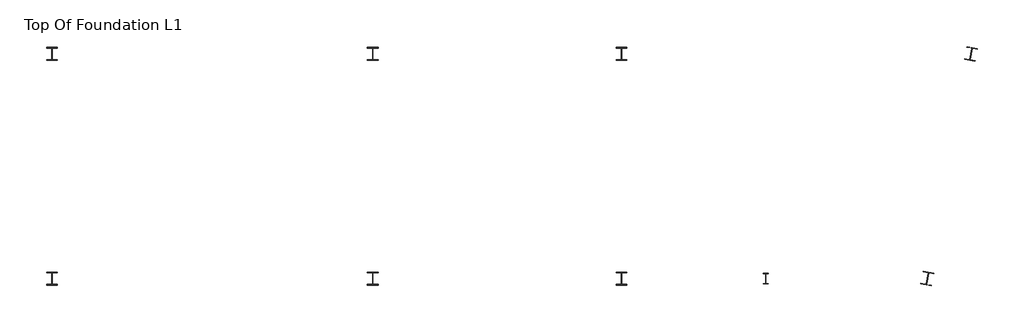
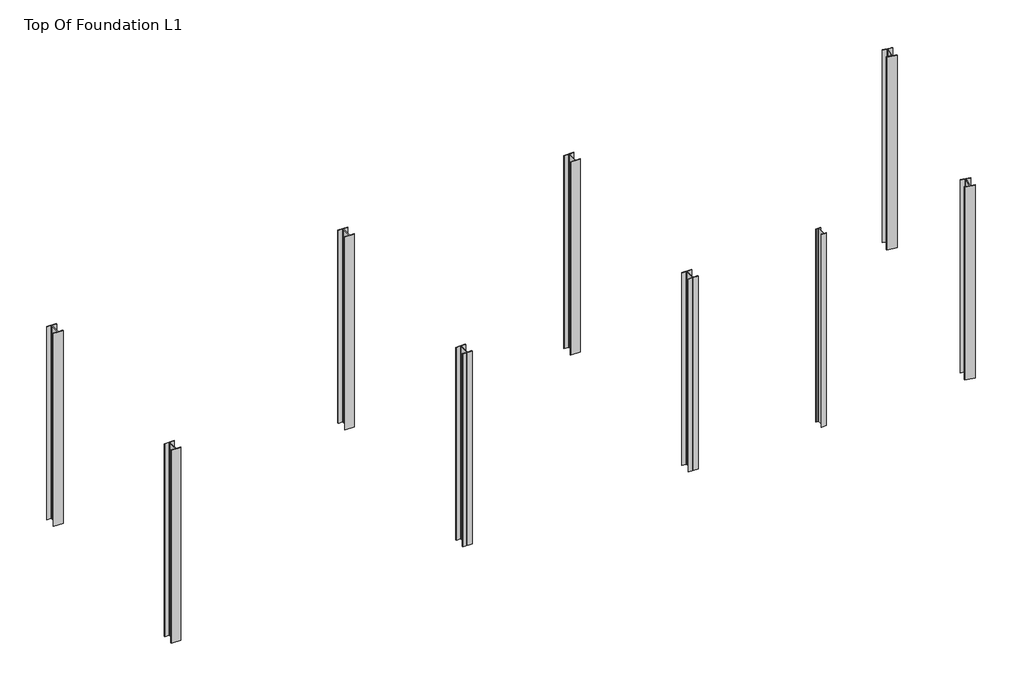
# One storey: 9 columns.
"""IFC4 building model written with IfcOpenShell, lengths in millimetres."""

import ifcopenshell
import ifcopenshell.guid

model = None  # the IFC model being written
_history = None  # IfcOwnerHistory: only IFC2X3 demands one
_inside = {}  # id of a spatial element -> (the spatial element, [elements in it])
_under = {}  # id of a project, library or spatial element -> (it, [spatial elements below it])
_declared = {}  # id of a project -> (the project, [libraries it declares])
_typed = {}  # id of a type object -> (the type object, [elements of that type])
_made_of = {}  # id of a material, layer set ... -> (it, [elements and type objects made of it])


def new_model(schema):
    """Start an empty IFC model of exactly this schema.

    Asked for "IFC4X3", IfcOpenShell would pick the latest addendum, in which some entities
    have other attributes; the version numbers below select the first issue.
    IFC2X3 requires an IfcOwnerHistory on every rooted entity: one is made here for all.
    """
    global model, _history
    if schema == "IFC4X3":
        model = ifcopenshell.file(schema_version=(4, 3, 0, 0))
    else:
        model = ifcopenshell.file(schema=schema)
    _inside.clear()
    _under.clear()
    _declared.clear()
    _typed.clear()
    _made_of.clear()
    _history = None
    if model.schema == "IFC2X3":
        org = make("IfcOrganization", Name="unknown")
        user = make(
            "IfcPersonAndOrganization",
            ThePerson=make("IfcPerson", FamilyName="unknown"),
            TheOrganization=org,
        )
        app = make(
            "IfcApplication",
            ApplicationDeveloper=org,
            Version="unknown",
            ApplicationFullName="unknown",
            ApplicationIdentifier="unknown",
        )
        _history = make(
            "IfcOwnerHistory",
            OwningUser=user,
            OwningApplication=app,
            ChangeAction="ADDED",
            CreationDate=0,
        )
    return model


def make(cls, **values):
    """One entity of the class cls with the attributes given. An attribute that is None is left unset."""
    return model.create_entity(
        cls, **{name: value for name, value in values.items() if value is not None}
    )


def rooted(cls, **values):
    """An entity with a GlobalId (a new one), such as an element, a storey or a relation."""
    return make(cls, GlobalId=ifcopenshell.guid.new(), OwnerHistory=_history, **values)


def si_unit(unit_type, name, prefix=None):
    """IfcSIUnit, for example si_unit("LENGTHUNIT", "METRE", prefix="MILLI")."""
    return make("IfcSIUnit", UnitType=unit_type, Prefix=prefix, Name=name)


def assignment(units):
    """IfcUnitAssignment: the units of a project."""
    return None if units is None else make("IfcUnitAssignment", Units=units)


def point(xyz):
    """IfcCartesianPoint."""
    return None if xyz is None else make("IfcCartesianPoint", Coordinates=xyz)


def direction(xyz):
    """IfcDirection."""
    return None if xyz is None else make("IfcDirection", DirectionRatios=xyz)


def frame(location, z_axis=None, x_axis=None):
    """IfcAxis2Placement3D, a coordinate frame: its origin and axes. An axis left out is left unset."""
    return make(
        "IfcAxis2Placement3D",
        Location=point(location),
        Axis=direction(z_axis),
        RefDirection=direction(x_axis),
    )


def frame_2d(location, x_axis=None):
    """IfcAxis2Placement2D, a coordinate frame in the plane: its origin and x axis."""
    return make(
        "IfcAxis2Placement2D", Location=point(location), RefDirection=direction(x_axis)
    )


def origin():
    """The frame at (0, 0, 0) with its axes left unset."""
    return frame((0.0, 0.0, 0.0))


def place(relative_to, where):
    """IfcLocalPlacement: puts the frame where relative to a parent placement (None: the world)."""
    return make(
        "IfcLocalPlacement", PlacementRelTo=relative_to, RelativePlacement=where
    )


def context(
    kind, dimensions, precision=None, world=None, true_north=None, identifier=None
):
    """IfcGeometricRepresentationContext, for example the 3D "Model" context."""
    return make(
        "IfcGeometricRepresentationContext",
        ContextIdentifier=identifier,
        ContextType=kind,
        CoordinateSpaceDimension=dimensions,
        Precision=precision,
        WorldCoordinateSystem=world,
        TrueNorth=true_north,
    )


def project(units=None, contexts=None):
    """IfcProject with its units and contexts."""
    return rooted(
        "IfcProject",
        Name="project",
        RepresentationContexts=contexts,
        UnitsInContext=assignment(units),
    )


def spatial(cls, under=None, at=None, **own):
    """A site, building, storey or space (cls), placed at a placement, below another one or the project."""
    s = rooted(cls, ObjectPlacement=at, **own)
    if under is not None:
        _under.setdefault(under.id(), (under, []))[1].append(s)
    return s


def polyline(points):
    """IfcPolyline through the points."""
    return make("IfcPolyline", Points=[point(p) for p in points])


def circle_curve(where, radius):
    """IfcCircle in the frame where."""
    return make("IfcCircle", Position=where, Radius=radius)


def trimmed(basis, trim1, trim2, sense, master):
    """IfcTrimmedCurve: the piece of a basis curve between two trims."""
    return make(
        "IfcTrimmedCurve",
        BasisCurve=basis,
        Trim1=trim1,
        Trim2=trim2,
        SenseAgreement=sense,
        MasterRepresentation=master,
    )


def segment(curve, same_sense, transition):
    """IfcCompositeCurveSegment."""
    return make(
        "IfcCompositeCurveSegment",
        Transition=transition,
        SameSense=same_sense,
        ParentCurve=curve,
    )


def composite_curve(segments, self_intersect=None):
    """IfcCompositeCurve: segments joined end to end."""
    return make("IfcCompositeCurve", Segments=segments, SelfIntersect=self_intersect)


def outline(outer, holes=None, kind="AREA"):
    """IfcArbitraryClosedProfileDef: a profile drawn as a closed curve; with holes, ...WithVoids."""
    if holes is None:
        return make("IfcArbitraryClosedProfileDef", ProfileType=kind, OuterCurve=outer)
    return make(
        "IfcArbitraryProfileDefWithVoids",
        ProfileType=kind,
        OuterCurve=outer,
        InnerCurves=holes,
    )


def extrude(swept, where, along, depth):
    """IfcExtrudedAreaSolid: the profile swept, set in the frame where, extruded along a direction by depth."""
    return make(
        "IfcExtrudedAreaSolid",
        SweptArea=swept,
        Position=where,
        ExtrudedDirection=direction(along),
        Depth=depth,
    )


def shape(context_of_items, identifier, shape_type, items):
    """IfcShapeRepresentation: the items that make up one representation, for example the "Body"."""
    return make(
        "IfcShapeRepresentation",
        ContextOfItems=context_of_items,
        RepresentationIdentifier=identifier,
        RepresentationType=shape_type,
        Items=items,
    )


def source(mapping_origin, context_of_items, identifier, shape_type, items):
    """IfcRepresentationMap: a shape defined once, which mapped items show again and again."""
    return make(
        "IfcRepresentationMap",
        MappingOrigin=mapping_origin,
        MappedRepresentation=shape(context_of_items, identifier, shape_type, items),
    )


def transform(
    local_origin,
    x_axis=None,
    y_axis=None,
    z_axis=None,
    scale=None,
    scale2=None,
    scale3=None,
    uniform=True,
):
    """IfcCartesianTransformationOperator3D, or its non-uniform kind. x_axis, y_axis, z_axis: its Axis1, 2, 3."""
    if uniform:
        return make(
            "IfcCartesianTransformationOperator3D",
            Axis1=direction(x_axis),
            Axis2=direction(y_axis),
            LocalOrigin=point(local_origin),
            Scale=scale,
            Axis3=direction(z_axis),
        )
    return make(
        "IfcCartesianTransformationOperator3DnonUniform",
        Axis1=direction(x_axis),
        Axis2=direction(y_axis),
        LocalOrigin=point(local_origin),
        Scale=scale,
        Axis3=direction(z_axis),
        Scale2=scale2,
        Scale3=scale3,
    )


def mapped(mapping_source, mapping_target):
    """IfcMappedItem: shows the shape of a source again, moved by a transform."""
    return make(
        "IfcMappedItem", MappingSource=mapping_source, MappingTarget=mapping_target
    )


def made_of(thing, what):
    """Note that an element or type object is made of a material, layer set ...; save() writes the relation."""
    if what is not None:
        _made_of.setdefault(what.id(), (what, []))[1].append(thing)
    return thing


def element(
    cls,
    number,
    at=None,
    inside=None,
    cuts=None,
    type_object=None,
    material=None,
    context=None,
    identifier="Body",
    shape_type=None,
    held_by="IfcProductDefinitionShape",
    body=None,
    shapes=None,
    **own,
):
    """One element of the class cls, such as IfcWall. Its Tag is "e" and its number.

    at: its placement. inside: the storey or other place that contains it. cuts: it is an
    opening in that element (IfcRelVoidsElement). A single representation is given by context,
    identifier, shape_type and body (its items); several are given by shapes. held_by: the class
    of the entity that holds the representations. save() writes the other relations.
    """
    e = rooted(cls, Tag="e%d" % number, ObjectPlacement=at, **own)
    if body is not None:
        shapes = [shape(context, identifier, shape_type, body)]
    if shapes is not None:
        e.Representation = make(held_by, Representations=shapes)
    if inside is not None:
        _inside.setdefault(inside.id(), (inside, []))[1].append(e)
    if cuts is not None:
        rooted(
            "IfcRelVoidsElement", RelatingBuildingElement=cuts, RelatedOpeningElement=e
        )
    if type_object is not None:
        _typed.setdefault(type_object.id(), (type_object, []))[1].append(e)
    return made_of(e, material)


def aggregate(whole, parts):
    """IfcRelAggregates: a whole, such as a stair, and the parts it consists of."""
    return rooted("IfcRelAggregates", RelatingObject=whole, RelatedObjects=parts)


def save(model, path):
    """Write the relations noted so far, then the file.

    IfcRelAggregates (storeys below a building ...), IfcRelContainedInSpatialStructure (elements
    in a storey), IfcRelDefinesByType, IfcRelAssociatesMaterial and IfcRelDeclares: one each for
    every whole, place, type object, material and project.
    """
    for whole, parts in _under.values():
        aggregate(whole, parts)
    for where, things in _inside.values():
        rooted(
            "IfcRelContainedInSpatialStructure",
            RelatedElements=things,
            RelatingStructure=where,
        )
    for kind, things in _typed.values():
        rooted("IfcRelDefinesByType", RelatedObjects=things, RelatingType=kind)
    for what, things in _made_of.values():
        rooted("IfcRelAssociatesMaterial", RelatedObjects=things, RelatingMaterial=what)
    for by, libraries in _declared.values():
        rooted("IfcRelDeclares", RelatingContext=by, RelatedDefinitions=libraries)
    model.write(path)


def w_shapes_column_w10x33_a1101d32(model_context):
    return source(origin(), model_context, "Body", "SweptSolid", [
        extrude(outline(composite_curve([segment(polyline([(101.092, 123.571), (101.092, 112.522), (16.383, 112.522)]), True, "CONTINUOUS"), segment(trimmed(circle_curve(frame_2d((16.383, 99.822)), 12.7), [point((16.383, 112.522))], [point((3.683, 99.822))], True, "CARTESIAN"), True, "CONTINUOUS"), segment(polyline([(3.683, 99.822), (3.683, -99.822)]), True, "CONTINUOUS"), segment(trimmed(circle_curve(frame_2d((16.383, -99.822)), 12.7), [point((3.683, -99.822))], [point((16.383, -112.522))], True, "CARTESIAN"), True, "CONTINUOUS"), segment(polyline([(16.383, -112.522), (101.092, -112.522), (101.092, -123.571), (-101.092, -123.571), (-101.092, -112.522), (-16.383, -112.522)]), True, "CONTINUOUS"), segment(trimmed(circle_curve(frame_2d((-16.383, -99.822)), 12.7), [point((-16.383, -112.522))], [point((-3.683, -99.822))], True, "CARTESIAN"), True, "CONTINUOUS"), segment(polyline([(-3.683, -99.822), (-3.683, 99.822)]), True, "CONTINUOUS"), segment(trimmed(circle_curve(frame_2d((-16.383, 99.822)), 12.7), [point((-3.683, 99.822))], [point((-16.383, 112.522))], True, "CARTESIAN"), True, "CONTINUOUS"), segment(polyline([(-16.383, 112.522), (-101.092, 112.522), (-101.092, 123.571), (101.092, 123.571)]), True, "CONTINUOUS")], self_intersect=False)), frame((0.0, 0.0, -1219.2), z_axis=(0.0, 0.0, 1.0), x_axis=(1.0, 0.0, 0.0)), (0.0, 0.0, 1.0), 4267.2),
    ])


def w_shapes_column_w8x10_2de26a70(model_context):
    return source(origin(), model_context, "Body", "SweptSolid", [
        extrude(outline(composite_curve([segment(polyline([(50.038, 100.203), (50.038, 94.996), (9.779, 94.996)]), True, "CONTINUOUS"), segment(trimmed(circle_curve(frame_2d((9.779, 87.376)), 7.62), [point((9.779, 94.996))], [point((2.159, 87.376))], True, "CARTESIAN"), True, "CONTINUOUS"), segment(polyline([(2.159, 87.376), (2.159, -87.376)]), True, "CONTINUOUS"), segment(trimmed(circle_curve(frame_2d((9.779, -87.376)), 7.62), [point((2.159, -87.376))], [point((9.779, -94.996))], True, "CARTESIAN"), True, "CONTINUOUS"), segment(polyline([(9.779, -94.996), (50.038, -94.996), (50.038, -100.203), (-50.038, -100.203), (-50.038, -94.996), (-9.779, -94.996)]), True, "CONTINUOUS"), segment(trimmed(circle_curve(frame_2d((-9.779, -87.376)), 7.62), [point((-9.779, -94.996))], [point((-2.159, -87.376))], True, "CARTESIAN"), True, "CONTINUOUS"), segment(polyline([(-2.159, -87.376), (-2.159, 87.376)]), True, "CONTINUOUS"), segment(trimmed(circle_curve(frame_2d((-9.779, 87.376)), 7.62), [point((-2.159, 87.376))], [point((-9.779, 94.996))], True, "CARTESIAN"), True, "CONTINUOUS"), segment(polyline([(-9.779, 94.996), (-50.038, 94.996), (-50.038, 100.203), (50.038, 100.203)]), True, "CONTINUOUS")], self_intersect=False)), frame((0.0, 0.0, -1219.2), z_axis=(0.0, 0.0, 1.0), x_axis=(1.0, 0.0, 0.0)), (0.0, 0.0, 1.0), 4267.2),
    ])


model = new_model("IFC4")

# Units and contexts
model_context = context("Model", 3, world=origin())
ifc_project = project(units=[si_unit("LENGTHUNIT", "METRE", prefix="MILLI")], contexts=[model_context])

# Site, building, storey
site = spatial("IfcSite", under=ifc_project)
building = spatial("IfcBuilding", under=site)
storey = spatial("IfcBuildingStorey", under=building, Name="Top Of Foundation L1", Elevation=-1219.2)

# Columns
placement = place(None, origin())
w_shapes_column_w10x33_shape = w_shapes_column_w10x33_a1101d32(model_context)
element("IfcColumn", 1, ObjectType="W Shapes-Column : W10X33", at=placement, inside=storey, context=model_context, shape_type="MappedRepresentation", body=[
    mapped(w_shapes_column_w10x33_shape, transform((-36.5050229, -196.1366747, 0.0), x_axis=(-1.0, 0.0, 0.0), y_axis=(0.0, -1.0, 0.0), z_axis=(0.0, 0.0, 1.0))),
])
element("IfcColumn", 2, ObjectType="W Shapes-Column : W10X33", at=placement, inside=storey, context=model_context, shape_type="MappedRepresentation", body=[
    mapped(w_shapes_column_w10x33_shape, transform((-36.5050229, -4463.3366747, 0.0), x_axis=(-1.0, 0.0, 0.0), y_axis=(0.0, -1.0, 0.0), z_axis=(0.0, 0.0, 1.0))),
])
element("IfcColumn", 3, ObjectType="W Shapes-Column : W10X33", at=placement, inside=storey, context=model_context, shape_type="MappedRepresentation", body=[
    mapped(w_shapes_column_w10x33_shape, transform((6059.4949771, -196.1366747, 0.0), x_axis=(-1.0, 0.0, 0.0), y_axis=(0.0, -1.0, 0.0), z_axis=(0.0, 0.0, 1.0))),
])
element("IfcColumn", 4, ObjectType="W Shapes-Column : W10X33", at=placement, inside=storey, context=model_context, shape_type="MappedRepresentation", body=[
    mapped(w_shapes_column_w10x33_shape, transform((6059.4949771, -4463.3366747, 0.0), x_axis=(-1.0, 0.0, 0.0), y_axis=(0.0, -1.0, 0.0), z_axis=(0.0, 0.0, 1.0))),
])
element("IfcColumn", 5, ObjectType="W Shapes-Column : W10X33", at=placement, inside=storey, context=model_context, shape_type="MappedRepresentation", body=[
    mapped(w_shapes_column_w10x33_shape, transform((10783.8949771, -196.1366747, 0.0), x_axis=(-1.0, 0.0, 0.0), y_axis=(0.0, -1.0, 0.0), z_axis=(0.0, 0.0, 1.0))),
])
element("IfcColumn", 6, ObjectType="W Shapes-Column : W10X33", at=placement, inside=storey, context=model_context, shape_type="MappedRepresentation", body=[
    mapped(w_shapes_column_w10x33_shape, transform((10783.8949771, -4463.3366747, 0.0), x_axis=(-1.0, 0.0, 0.0), y_axis=(0.0, -1.0, 0.0), z_axis=(0.0, 0.0, 1.0))),
])
element("IfcColumn", 7, ObjectType="W Shapes-Column : W10X33", at=placement, inside=storey, context=model_context, shape_type="MappedRepresentation", body=[
    mapped(w_shapes_column_w10x33_shape, transform((17423.8615645, -196.1366747, 0.0), x_axis=(-0.9816271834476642, 0.19080899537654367, 0.0), y_axis=(-0.19080899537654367, -0.9816271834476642, 0.0), z_axis=(0.0, 0.0, 1.0))),
])
element("IfcColumn", 8, ObjectType="W Shapes-Column : W10X33", at=placement, inside=storey, context=model_context, shape_type="MappedRepresentation", body=[
    mapped(w_shapes_column_w10x33_shape, transform((16594.4019093, -4463.3366747, 0.0), x_axis=(-0.9816271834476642, 0.1908089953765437, 0.0), y_axis=(-0.1908089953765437, -0.9816271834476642, 0.0), z_axis=(0.0, 0.0, 1.0))),
])
w_shapes_column_w8x10_shape = w_shapes_column_w8x10_2de26a70(model_context)
element("IfcColumn", 9, ObjectType="W Shapes-Column : W8X10", at=placement, inside=storey, context=model_context, shape_type="MappedRepresentation", body=[
    mapped(w_shapes_column_w8x10_shape, transform((13527.0949771, -4463.3366747, 0.0), x_axis=(-1.0, 0.0, 0.0), y_axis=(0.0, -1.0, 0.0), z_axis=(0.0, 0.0, 1.0))),
])

save(model, "model.ifc")
